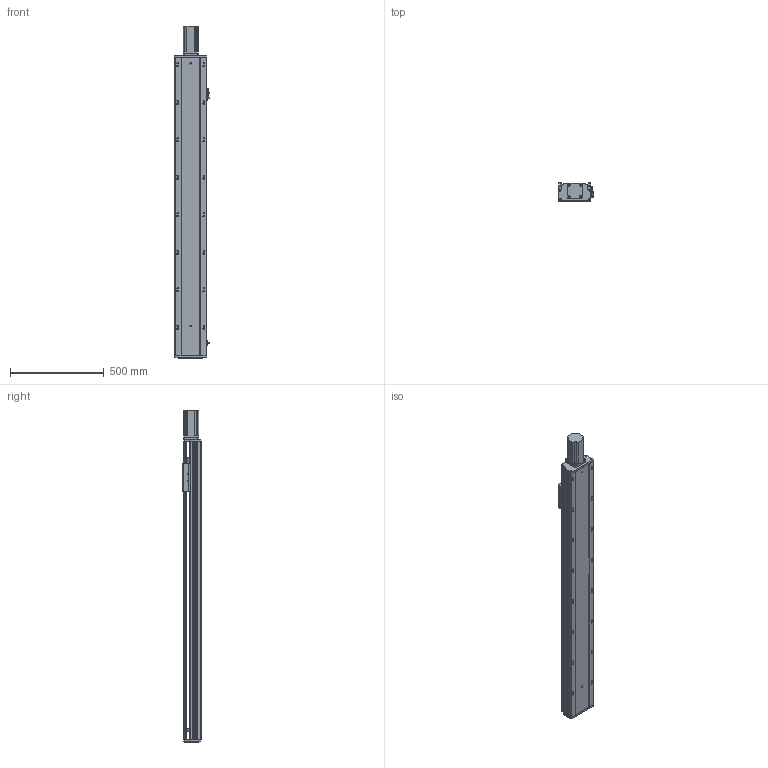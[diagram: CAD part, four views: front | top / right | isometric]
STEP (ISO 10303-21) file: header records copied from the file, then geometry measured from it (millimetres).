
FILE_DESCRIPTION (( 'STEP AP203' ), '1' );
FILE_NAME ('RY170-L2510-1200-MK.SLDASM_1250.step', '2021-02-20T05:12:08', ( '盈信电脑' ), ( '东莞市道滘镇水果街19号' ), 'SwSTEP 2.0', 'SolidWorks 2012', '' );
FILE_SCHEMA (( 'CONFIG_CONTROL_DESIGN' ));
Length unit declared in the file: millimetre
Products named in the file (12): 滅袉蝶18-15; 侂狟750W萇儂ㄗ80遺ㄘ; RY170-L2510-1200-MK.SLDASM_1250; 750W萇儂梓袧蛌諉啣; 滅袉蝶18-28; RY170外置感应片(200共用）; 覜茼ん672; RY170ヶ醱裔啣; RY170-1200倰第裔啣-MK_1250; RY170臏賑輸25佪裝蹟譫; RY170綴裔啣; RY170-1200倰第菁釱-MK_1250
Assembly tree (13 placements, depth 2):
  RY170-L2510-1200-MK.SLDASM_1250
    RY170-1200倰第菁釱-MK_1250
    RY170-1200倰第裔啣-MK_1250
    RY170臏賑輸25佪裝蹟譫
    RY170綴裔啣
    覜茼ん672  x3
    RY170外置感应片(200共用）
    RY170ヶ醱裔啣
    滅袉蝶18-28
    滅袉蝶18-15
    750W萇儂梓袧蛌諉啣
    侂狟750W萇儂ㄗ80遺ㄘ
Bounding box: 183.7 x 97 x 1771 mm (x, y, z)
Volume: 8298428 mm3; surface area: 2625913.5 mm2
Topology: 13 solids, 13 shells, 1670 faces, 4895 edges, 3106 vertices
Faces by surface type: cylinder 764, plane 711, cone 191, bspline 4
Entity records: 53038 total; most frequent: CARTESIAN_POINT 12070, ORIENTED_EDGE 8502, DIRECTION 8170, EDGE_CURVE 4251, AXIS2_PLACEMENT_3D 2886, VERTEX_POINT 2786, LINE 2398, VECTOR 2398
